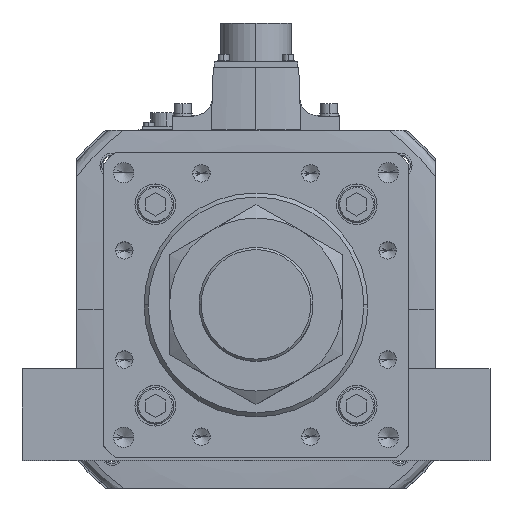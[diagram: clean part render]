
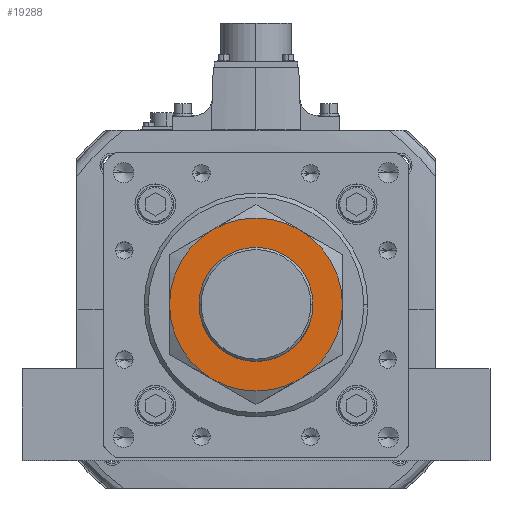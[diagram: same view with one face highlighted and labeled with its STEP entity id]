
A CAD part, top view. The second image highlights one B-rep face of the part: STEP entity #19288.
In plain terms, the highlighted planar face has unit normal (0, 0, 1).
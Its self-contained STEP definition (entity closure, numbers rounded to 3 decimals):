
#548 = CARTESIAN_POINT ( 'NONE',  ( 0., 0., 34. ) ) ;
#2276 = DIRECTION ( 'NONE',  ( 1., 0., 0. ) ) ;
#2462 = DIRECTION ( 'NONE',  ( 0., 0., 1. ) ) ;
#3082 = CARTESIAN_POINT ( 'NONE',  ( 0., 0., 34. ) ) ;
#4345 = AXIS2_PLACEMENT_3D ( 'NONE', #3082, #46968, #47367 ) ;
#4395 = CARTESIAN_POINT ( 'NONE',  ( 28., 0., 34. ) ) ;
#7500 = CIRCLE ( 'NONE', #54770, 42.5 ) ;
#8899 = AXIS2_PLACEMENT_3D ( 'NONE', #51879, #12041, #20778 ) ;
#10303 = CIRCLE ( 'NONE', #32859, 28. ) ;
#11157 = EDGE_LOOP ( 'NONE', ( #17969, #36244 ) ) ;
#11412 = PLANE ( 'NONE',  #57392 ) ;
#12041 = DIRECTION ( 'NONE',  ( 0., 0., -1. ) ) ;
#12556 = CIRCLE ( 'NONE', #41886, 42.5 ) ;
#12637 = ORIENTED_EDGE ( 'NONE', *, *, #44470, .F. ) ;
#12882 = CARTESIAN_POINT ( 'NONE',  ( -21.25, 36.806, 34. ) ) ;
#13651 = CARTESIAN_POINT ( 'NONE',  ( 0., 0., 34. ) ) ;
#13764 = AXIS2_PLACEMENT_3D ( 'NONE', #548, #53242, #31705 ) ;
#14063 = DIRECTION ( 'NONE',  ( 0., 0., 1. ) ) ;
#14485 = DIRECTION ( 'NONE',  ( 0., 0., -1. ) ) ;
#15980 = CIRCLE ( 'NONE', #8899, 42.5 ) ;
#16131 = DIRECTION ( 'NONE',  ( 0., 0., 1. ) ) ;
#16595 = FACE_OUTER_BOUND ( 'NONE', #45809, .T. ) ;
#17335 = EDGE_CURVE ( 'NONE', #36082, #43575, #36160, .T. ) ;
#17508 = EDGE_CURVE ( 'NONE', #56242, #26317, #15980, .T. ) ;
#17969 = ORIENTED_EDGE ( 'NONE', *, *, #52569, .F. ) ;
#17976 = FACE_BOUND ( 'NONE', #11157, .T. ) ;
#18612 = EDGE_CURVE ( 'NONE', #25059, #43327, #10303, .T. ) ;
#19288 = ADVANCED_FACE ( 'NONE', ( #16595, #17976 ), #11412, .T. ) ;
#19382 = CARTESIAN_POINT ( 'NONE',  ( 0., 0., 34. ) ) ;
#20778 = DIRECTION ( 'NONE',  ( -1., 0., 0. ) ) ;
#23003 = CARTESIAN_POINT ( 'NONE',  ( 0., 0., 34. ) ) ;
#24988 = CARTESIAN_POINT ( 'NONE',  ( -42.5, 0., 34. ) ) ;
#25059 = VERTEX_POINT ( 'NONE', #4395 ) ;
#25104 = DIRECTION ( 'NONE',  ( 0., 0., -1. ) ) ;
#26317 = VERTEX_POINT ( 'NONE', #12882 ) ;
#26507 = CIRCLE ( 'NONE', #51191, 28. ) ;
#27440 = EDGE_CURVE ( 'NONE', #43022, #56242, #50870, .T. ) ;
#28212 = ORIENTED_EDGE ( 'NONE', *, *, #17508, .F. ) ;
#28718 = CARTESIAN_POINT ( 'NONE',  ( -21.25, -36.806, 34. ) ) ;
#29764 = DIRECTION ( 'NONE',  ( 1., 0., 0. ) ) ;
#31705 = DIRECTION ( 'NONE',  ( 1., 0., 0. ) ) ;
#32859 = AXIS2_PLACEMENT_3D ( 'NONE', #23003, #14063, #40832 ) ;
#35646 = CARTESIAN_POINT ( 'NONE',  ( 21.25, 36.806, 34. ) ) ;
#36082 = VERTEX_POINT ( 'NONE', #35646 ) ;
#36160 = CIRCLE ( 'NONE', #13764, 42.5 ) ;
#36244 = ORIENTED_EDGE ( 'NONE', *, *, #18612, .F. ) ;
#37582 = ORIENTED_EDGE ( 'NONE', *, *, #27440, .F. ) ;
#38084 = CARTESIAN_POINT ( 'NONE',  ( 42.5, 0., 34. ) ) ;
#38267 = CARTESIAN_POINT ( 'NONE',  ( 0., 0., 34. ) ) ;
#39199 = CIRCLE ( 'NONE', #44735, 42.5 ) ;
#40181 = EDGE_CURVE ( 'NONE', #51944, #43022, #7500, .T. ) ;
#40465 = ORIENTED_EDGE ( 'NONE', *, *, #51738, .F. ) ;
#40595 = ORIENTED_EDGE ( 'NONE', *, *, #17335, .F. ) ;
#40832 = DIRECTION ( 'NONE',  ( 1., 0., 0. ) ) ;
#41092 = CARTESIAN_POINT ( 'NONE',  ( 0., 0., 34. ) ) ;
#41886 = AXIS2_PLACEMENT_3D ( 'NONE', #13651, #49002, #53288 ) ;
#42350 = CARTESIAN_POINT ( 'NONE',  ( 0., 0., 34. ) ) ;
#42705 = DIRECTION ( 'NONE',  ( 1., 0., 0. ) ) ;
#43022 = VERTEX_POINT ( 'NONE', #28718 ) ;
#43327 = VERTEX_POINT ( 'NONE', #45278 ) ;
#43575 = VERTEX_POINT ( 'NONE', #38084 ) ;
#44470 = EDGE_CURVE ( 'NONE', #26317, #36082, #12556, .T. ) ;
#44645 = ORIENTED_EDGE ( 'NONE', *, *, #40181, .F. ) ;
#44735 = AXIS2_PLACEMENT_3D ( 'NONE', #41092, #14485, #45518 ) ;
#45278 = CARTESIAN_POINT ( 'NONE',  ( -28., 0., 34. ) ) ;
#45518 = DIRECTION ( 'NONE',  ( 1., 0., 0. ) ) ;
#45809 = EDGE_LOOP ( 'NONE', ( #40465, #40595, #12637, #28212, #37582, #44645 ) ) ;
#46968 = DIRECTION ( 'NONE',  ( 0., 0., -1. ) ) ;
#47367 = DIRECTION ( 'NONE',  ( 1., 0., 0. ) ) ;
#49002 = DIRECTION ( 'NONE',  ( 0., 0., -1. ) ) ;
#50870 = CIRCLE ( 'NONE', #4345, 42.5 ) ;
#51191 = AXIS2_PLACEMENT_3D ( 'NONE', #42350, #16131, #29764 ) ;
#51738 = EDGE_CURVE ( 'NONE', #43575, #51944, #39199, .T. ) ;
#51879 = CARTESIAN_POINT ( 'NONE',  ( 0., 0., 34. ) ) ;
#51944 = VERTEX_POINT ( 'NONE', #56014 ) ;
#52569 = EDGE_CURVE ( 'NONE', #43327, #25059, #26507, .T. ) ;
#53242 = DIRECTION ( 'NONE',  ( 0., 0., -1. ) ) ;
#53288 = DIRECTION ( 'NONE',  ( 1., 0., 0. ) ) ;
#54770 = AXIS2_PLACEMENT_3D ( 'NONE', #38267, #25104, #42705 ) ;
#56014 = CARTESIAN_POINT ( 'NONE',  ( 21.25, -36.806, 34. ) ) ;
#56242 = VERTEX_POINT ( 'NONE', #24988 ) ;
#57392 = AXIS2_PLACEMENT_3D ( 'NONE', #19382, #2462, #2276 ) ;
